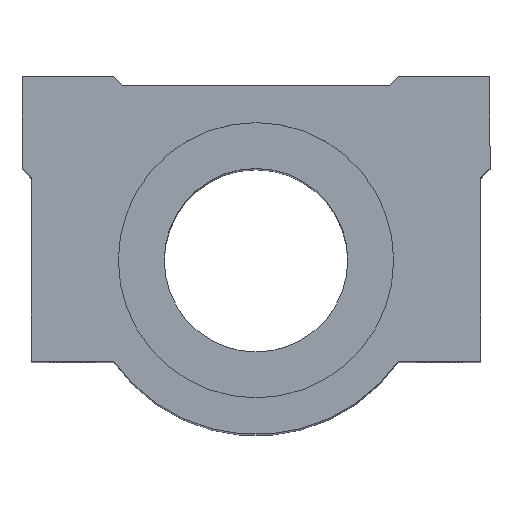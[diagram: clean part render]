
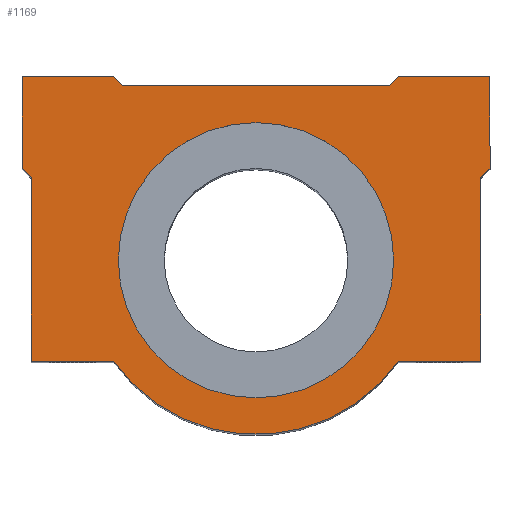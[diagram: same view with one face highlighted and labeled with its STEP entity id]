
A CAD part, top view. The second image highlights one B-rep face of the part: STEP entity #1169.
In plain terms, the highlighted planar face has unit normal (0, 0, 1).
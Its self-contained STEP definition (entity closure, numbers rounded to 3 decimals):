
#91=CARTESIAN_POINT('',(-30.709,4.198,178.0));
#92=VERTEX_POINT('',#91);
#101=CARTESIAN_POINT('',(29.291,4.198,178.0));
#102=VERTEX_POINT('',#101);
#103=CARTESIAN_POINT('',(-0.709,4.198,178.0));
#104=DIRECTION('',(0.0,0.0,-1.0));
#105=DIRECTION('',(-1.0,0.0,0.0));
#106=AXIS2_PLACEMENT_3D('',#103,#104,#105);
#107=CIRCLE('',#106,30.0);
#108=EDGE_CURVE('',#102,#92,#107,.T.);
#640=CARTESIAN_POINT('',(-0.709,4.198,178.0));
#641=DIRECTION('',(0.0,0.0,-1.0));
#642=DIRECTION('',(-1.0,0.0,0.0));
#643=AXIS2_PLACEMENT_3D('',#640,#641,#642);
#644=CIRCLE('',#643,30.0);
#645=EDGE_CURVE('',#92,#102,#644,.T.);
#780=CARTESIAN_POINT('',(50.291,24.198,178.0));
#781=VERTEX_POINT('',#780);
#782=CARTESIAN_POINT('',(48.291,22.198,178.0));
#783=VERTEX_POINT('',#782);
#784=CARTESIAN_POINT('',(50.291,24.198,178.0));
#785=DIRECTION('',(-0.707,-0.707,0.0));
#786=VECTOR('',#785,2.828);
#787=LINE('',#784,#786);
#788=EDGE_CURVE('',#781,#783,#787,.T.);
#811=CARTESIAN_POINT('',(48.291,-17.802,178.0));
#812=VERTEX_POINT('',#811);
#813=CARTESIAN_POINT('',(48.291,22.198,178.0));
#814=DIRECTION('',(0.0,-1.0,0.0));
#815=VECTOR('',#814,40.);
#816=LINE('',#813,#815);
#817=EDGE_CURVE('',#783,#812,#816,.T.);
#835=CARTESIAN_POINT('',(30.275,-17.802,178.0));
#836=VERTEX_POINT('',#835);
#837=CARTESIAN_POINT('',(48.291,-17.802,178.0));
#838=DIRECTION('',(-1.0,0.0,0.0));
#839=VECTOR('',#838,18.016);
#840=LINE('',#837,#839);
#841=EDGE_CURVE('',#812,#836,#840,.T.);
#867=CARTESIAN_POINT('',(-31.693,-17.802,178.0));
#868=VERTEX_POINT('',#867);
#869=CARTESIAN_POINT('',(-0.709,4.198,178.0));
#870=DIRECTION('',(0.0,0.0,-1.));
#871=DIRECTION('',(0.815,0.579,0.0));
#872=AXIS2_PLACEMENT_3D('',#869,#870,#871);
#873=CIRCLE('',#872,38.0);
#874=EDGE_CURVE('',#836,#868,#873,.T.);
#892=CARTESIAN_POINT('',(-49.709,-17.802,178.0));
#893=VERTEX_POINT('',#892);
#894=CARTESIAN_POINT('',(-31.693,-17.802,178.0));
#895=DIRECTION('',(-1.0,0.0,0.0));
#896=VECTOR('',#895,18.016);
#897=LINE('',#894,#896);
#898=EDGE_CURVE('',#868,#893,#897,.T.);
#924=CARTESIAN_POINT('',(-49.709,22.198,178.0));
#925=VERTEX_POINT('',#924);
#926=CARTESIAN_POINT('',(-49.709,-17.802,178.0));
#927=DIRECTION('',(0.0,1.0,0.0));
#928=VECTOR('',#927,40.);
#929=LINE('',#926,#928);
#930=EDGE_CURVE('',#893,#925,#929,.T.);
#948=CARTESIAN_POINT('',(-51.709,24.198,178.0));
#949=VERTEX_POINT('',#948);
#950=CARTESIAN_POINT('',(-49.709,22.198,178.0));
#951=DIRECTION('',(-0.707,0.707,0.0));
#952=VECTOR('',#951,2.828);
#953=LINE('',#950,#952);
#954=EDGE_CURVE('',#925,#949,#953,.T.);
#972=CARTESIAN_POINT('',(-51.709,44.198,178.0));
#973=VERTEX_POINT('',#972);
#974=CARTESIAN_POINT('',(-51.709,24.198,178.0));
#975=DIRECTION('',(0.0,1.0,0.0));
#976=VECTOR('',#975,20.0);
#977=LINE('',#974,#976);
#978=EDGE_CURVE('',#949,#973,#977,.T.);
#996=CARTESIAN_POINT('',(-31.709,44.198,178.0));
#997=VERTEX_POINT('',#996);
#998=CARTESIAN_POINT('',(-51.709,44.198,178.0));
#999=DIRECTION('',(1.0,0.0,0.0));
#1000=VECTOR('',#999,20.);
#1001=LINE('',#998,#1000);
#1002=EDGE_CURVE('',#973,#997,#1001,.T.);
#1028=CARTESIAN_POINT('',(-29.709,42.198,178.0));
#1029=VERTEX_POINT('',#1028);
#1030=CARTESIAN_POINT('',(-31.709,44.198,178.0));
#1031=DIRECTION('',(0.707,-0.707,0.0));
#1032=VECTOR('',#1031,2.828);
#1033=LINE('',#1030,#1032);
#1034=EDGE_CURVE('',#997,#1029,#1033,.T.);
#1052=CARTESIAN_POINT('',(28.291,42.198,178.0));
#1053=VERTEX_POINT('',#1052);
#1054=CARTESIAN_POINT('',(-29.709,42.198,178.0));
#1055=DIRECTION('',(1.0,0.0,0.0));
#1056=VECTOR('',#1055,58.);
#1057=LINE('',#1054,#1056);
#1058=EDGE_CURVE('',#1029,#1053,#1057,.T.);
#1076=CARTESIAN_POINT('',(30.291,44.198,178.0));
#1077=VERTEX_POINT('',#1076);
#1078=CARTESIAN_POINT('',(28.291,42.198,178.0));
#1079=DIRECTION('',(0.707,0.707,0.0));
#1080=VECTOR('',#1079,2.828);
#1081=LINE('',#1078,#1080);
#1082=EDGE_CURVE('',#1053,#1077,#1081,.T.);
#1100=CARTESIAN_POINT('',(50.291,44.198,178.0));
#1101=VERTEX_POINT('',#1100);
#1102=CARTESIAN_POINT('',(30.291,44.198,178.0));
#1103=DIRECTION('',(1.0,0.0,0.0));
#1104=VECTOR('',#1103,20.);
#1105=LINE('',#1102,#1104);
#1106=EDGE_CURVE('',#1077,#1101,#1105,.T.);
#1132=CARTESIAN_POINT('',(50.291,44.198,178.0));
#1133=DIRECTION('',(0.0,-1.0,0.0));
#1134=VECTOR('',#1133,20.0);
#1135=LINE('',#1132,#1134);
#1136=EDGE_CURVE('',#1101,#781,#1135,.T.);
#1144=CARTESIAN_POINT('',(-0.709,10.416,178.0));
#1145=DIRECTION('',(0.0,0.0,1.0));
#1146=DIRECTION('',(1.0,0.0,0.0));
#1147=AXIS2_PLACEMENT_3D('',#1144,#1145,#1146);
#1148=PLANE('',#1147);
#1149=ORIENTED_EDGE('',*,*,#788,.F.);
#1150=ORIENTED_EDGE('',*,*,#1136,.F.);
#1151=ORIENTED_EDGE('',*,*,#1106,.F.);
#1152=ORIENTED_EDGE('',*,*,#1082,.F.);
#1153=ORIENTED_EDGE('',*,*,#1058,.F.);
#1154=ORIENTED_EDGE('',*,*,#1034,.F.);
#1155=ORIENTED_EDGE('',*,*,#1002,.F.);
#1156=ORIENTED_EDGE('',*,*,#978,.F.);
#1157=ORIENTED_EDGE('',*,*,#954,.F.);
#1158=ORIENTED_EDGE('',*,*,#930,.F.);
#1159=ORIENTED_EDGE('',*,*,#898,.F.);
#1160=ORIENTED_EDGE('',*,*,#874,.F.);
#1161=ORIENTED_EDGE('',*,*,#841,.F.);
#1162=ORIENTED_EDGE('',*,*,#817,.F.);
#1163=EDGE_LOOP('',(#1149,#1150,#1151,#1152,#1153,#1154,#1155,#1156,#1157,#1158,#1159,#1160,#1161,#1162));
#1164=FACE_OUTER_BOUND('',#1163,.T.);
#1165=ORIENTED_EDGE('',*,*,#108,.T.);
#1166=ORIENTED_EDGE('',*,*,#645,.T.);
#1167=EDGE_LOOP('',(#1165,#1166));
#1168=FACE_BOUND('',#1167,.T.);
#1169=ADVANCED_FACE('',(#1164,#1168),#1148,.T.);
